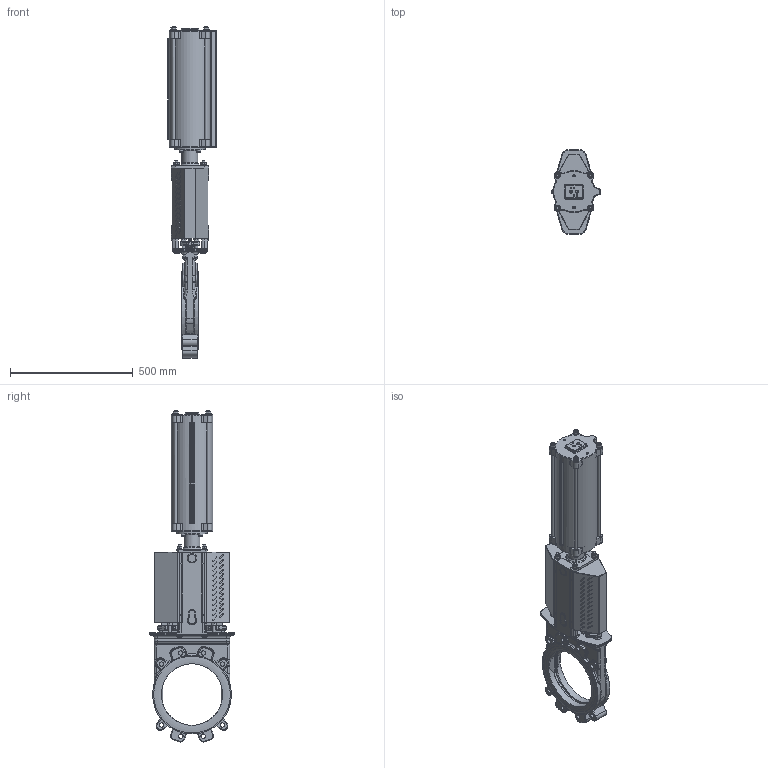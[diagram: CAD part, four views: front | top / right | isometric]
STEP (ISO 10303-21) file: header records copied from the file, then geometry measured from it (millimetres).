
FILE_DESCRIPTION(/* description */ (''),/* implementation_level */ '2;1');
FILE_NAME(/* name */ 'F:\Emir\3D-block special\WB\WB11-DN250-PN10-FRSC160-320.stp',/* time_stamp */ '2018-02-13T11:57:02+01:00',/* author */ ('emimus'),/* organization */ (''),/* preprocessor_version */ 'ST-DEVELOPER v17',/* originating_system */ 'Autodesk Inventor 2018',/* authorisation */ '');
FILE_SCHEMA (('CONFIG_CONTROL_DESIGN'));
Products named in the file (1): WB11-DN250-PN10-FRSC160-320
Bounding box: 198.5 x 345 x 1349.93 mm (x, y, z)
Volume: 9611088.4 mm3; surface area: 2326450.2 mm2
Topology: 2 solids, 2 shells, 2823 faces, 7250 edges, 4454 vertices
Faces by surface type: plane 997, cylinder 926, torus 309, bspline 302, cone 217, sphere 72
Full cylindrical faces by diameter (mm): 3 x5, 4 x6, 4.134 x4, 4.2 x16, 4.5 x4, 4.917 x4, 8 x6, 8.376 x2, 9.5 x4, 10 x11, 10.25 x4, 11.445 x2, 12 x28, 13 x17, 15 x2, 16 x6, 17.5 x12, 17.7 x1, 18 x4, 20 x1, 24 x14, 28 x2, 30 x1, 30.1 x2, 34 x1, 36 x1, 36.4 x1, 38 x3, 55 x1, 65 x1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
Entity records: 111316 total; most frequent: CARTESIAN_POINT 43275, DIRECTION 14573, ORIENTED_EDGE 14378, EDGE_CURVE 7189, AXIS2_PLACEMENT_3D 5850, VERTEX_POINT 4454, EDGE_LOOP 3131, CIRCLE 3010
